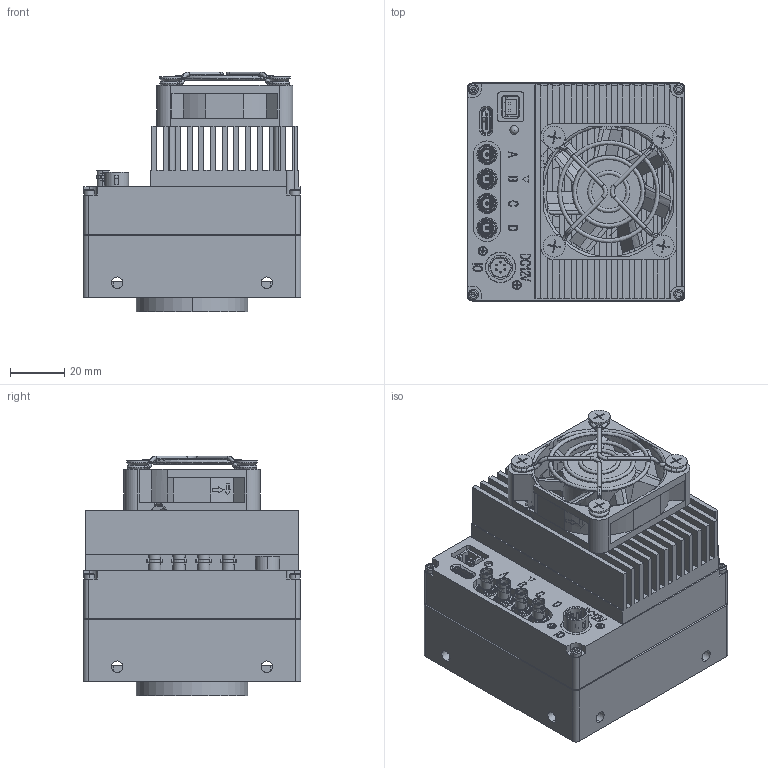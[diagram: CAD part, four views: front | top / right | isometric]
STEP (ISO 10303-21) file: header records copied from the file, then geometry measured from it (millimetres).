
FILE_DESCRIPTION (( 'STEP AP203' ), '1' );
FILE_NAME ('TS25MCXP12-150M(C)-A05-V1.1.0-三维模型.STEP', '2022-09-02T01:00:25', ( '微软用户' ), ( '微软中国' ), 'SwSTEP 2.0', 'SolidWorks 2017', '' );
FILE_SCHEMA (( 'CONFIG_CONTROL_DESIGN' ));
Length unit declared in the file: millimetre
Products named in the file (1): TS25MCXP12-150M(C)-A05-V1.1.0-三维模型
Bounding box: 80 x 80 x 87.99 mm (x, y, z)
Surface area: 79854 mm2 (no closed solid volume)
Topology: 0 solids, 107 shells, 1009 faces, 3839 edges, 2861 vertices
Faces by surface type: plane 487, cylinder 298, bspline 120, cone 82, torus 16, sphere 6
Entity records: 51150 total; most frequent: CARTESIAN_POINT 21376, ORIENTED_EDGE 5852, DIRECTION 5402, EDGE_CURVE 3811, VERTEX_POINT 2852, VECTOR 2060, LINE 2060, AXIS2_PLACEMENT_3D 1671
